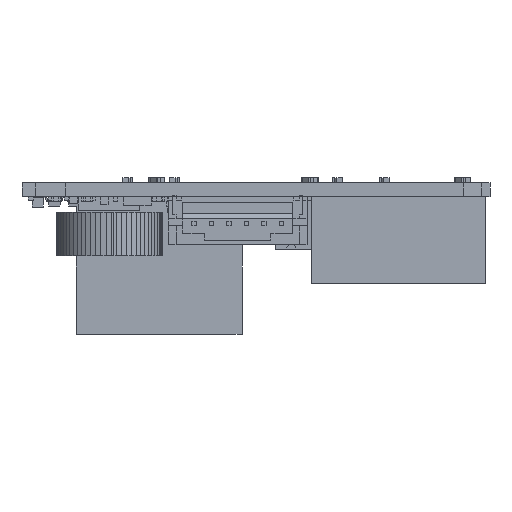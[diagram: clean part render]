
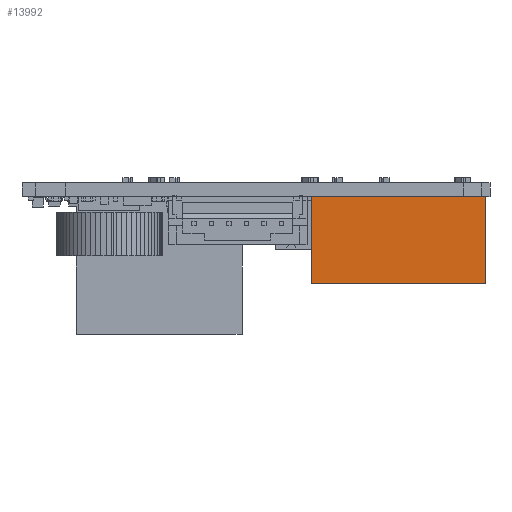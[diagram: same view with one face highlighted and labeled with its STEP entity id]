
A CAD part, front view. The second image highlights one B-rep face of the part: STEP entity #13992.
In plain terms, the highlighted planar face has unit normal (0, -1, 0).
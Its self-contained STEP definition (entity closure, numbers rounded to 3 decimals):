
#13967 = VERTEX_POINT('',#13968);
#13968 = CARTESIAN_POINT('',(-9.999,-12.499,10.));
#13974 = EDGE_CURVE('',#13975,#13967,#13977,.T.);
#13975 = VERTEX_POINT('',#13976);
#13976 = CARTESIAN_POINT('',(-9.999,-12.499,0.));
#13977 = LINE('',#13978,#13979);
#13978 = CARTESIAN_POINT('',(-9.999,-12.499,0.));
#13979 = VECTOR('',#13980,1.);
#13980 = DIRECTION('',(0.,0.,1.));
#13992 = ADVANCED_FACE('',(#13993),#14018,.F.);
#13993 = FACE_BOUND('',#13994,.F.);
#13994 = EDGE_LOOP('',(#13995,#13996,#14004,#14012));
#13995 = ORIENTED_EDGE('',*,*,#13974,.T.);
#13996 = ORIENTED_EDGE('',*,*,#13997,.T.);
#13997 = EDGE_CURVE('',#13967,#13998,#14000,.T.);
#13998 = VERTEX_POINT('',#13999);
#13999 = CARTESIAN_POINT('',(9.999,-12.499,10.));
#14000 = LINE('',#14001,#14002);
#14001 = CARTESIAN_POINT('',(-9.999,-12.499,10.));
#14002 = VECTOR('',#14003,1.);
#14003 = DIRECTION('',(1.,0.,0.));
#14004 = ORIENTED_EDGE('',*,*,#14005,.F.);
#14005 = EDGE_CURVE('',#14006,#13998,#14008,.T.);
#14006 = VERTEX_POINT('',#14007);
#14007 = CARTESIAN_POINT('',(9.999,-12.499,0.));
#14008 = LINE('',#14009,#14010);
#14009 = CARTESIAN_POINT('',(9.999,-12.499,0.));
#14010 = VECTOR('',#14011,1.);
#14011 = DIRECTION('',(0.,0.,1.));
#14012 = ORIENTED_EDGE('',*,*,#14013,.F.);
#14013 = EDGE_CURVE('',#13975,#14006,#14014,.T.);
#14014 = LINE('',#14015,#14016);
#14015 = CARTESIAN_POINT('',(-9.999,-12.499,0.));
#14016 = VECTOR('',#14017,1.);
#14017 = DIRECTION('',(1.,0.,0.));
#14018 = PLANE('',#14019);
#14019 = AXIS2_PLACEMENT_3D('',#14020,#14021,#14022);
#14020 = CARTESIAN_POINT('',(-9.999,-12.499,0.));
#14021 = DIRECTION('',(0.,1.,0.));
#14022 = DIRECTION('',(1.,0.,0.));
